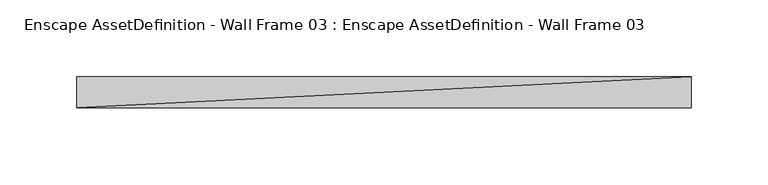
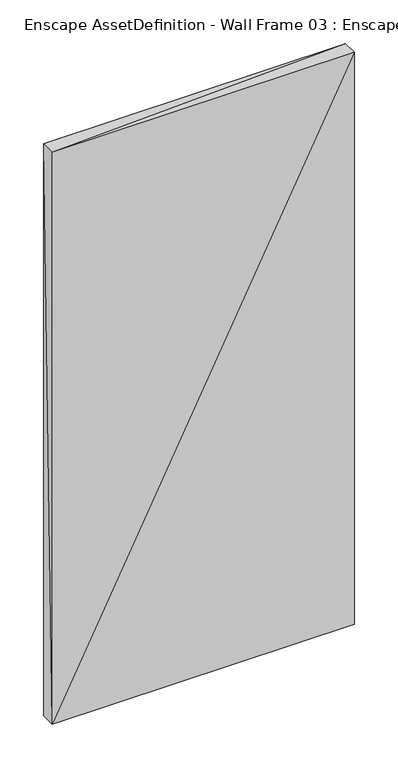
"""IFC4 building model written with IfcOpenShell, lengths in millimetres: geographic element geometry, Enscape AssetDefinition - Wall Frame 03 : Enscape AssetDefinition - Wall Frame 03."""

import ifcopenshell
import ifcopenshell.guid

model = None  # the IFC model being written
_history = None  # IfcOwnerHistory: only IFC2X3 demands one
_inside = {}  # id of a spatial element -> (the spatial element, [elements in it])
_under = {}  # id of a project, library or spatial element -> (it, [spatial elements below it])
_declared = {}  # id of a project -> (the project, [libraries it declares])
_typed = {}  # id of a type object -> (the type object, [elements of that type])
_made_of = {}  # id of a material, layer set ... -> (it, [elements and type objects made of it])


def new_model(schema):
    """Start an empty IFC model of exactly this schema.

    Asked for "IFC4X3", IfcOpenShell would pick the latest addendum, in which some entities
    have other attributes; the version numbers below select the first issue.
    IFC2X3 requires an IfcOwnerHistory on every rooted entity: one is made here for all.
    """
    global model, _history
    if schema == "IFC4X3":
        model = ifcopenshell.file(schema_version=(4, 3, 0, 0))
    else:
        model = ifcopenshell.file(schema=schema)
    _inside.clear()
    _under.clear()
    _declared.clear()
    _typed.clear()
    _made_of.clear()
    _history = None
    if model.schema == "IFC2X3":
        org = make("IfcOrganization", Name="unknown")
        user = make(
            "IfcPersonAndOrganization",
            ThePerson=make("IfcPerson", FamilyName="unknown"),
            TheOrganization=org,
        )
        app = make(
            "IfcApplication",
            ApplicationDeveloper=org,
            Version="unknown",
            ApplicationFullName="unknown",
            ApplicationIdentifier="unknown",
        )
        _history = make(
            "IfcOwnerHistory",
            OwningUser=user,
            OwningApplication=app,
            ChangeAction="ADDED",
            CreationDate=0,
        )
    return model


def make(cls, **values):
    """One entity of the class cls with the attributes given. An attribute that is None is left unset."""
    return model.create_entity(
        cls, **{name: value for name, value in values.items() if value is not None}
    )


def rooted(cls, **values):
    """An entity with a GlobalId (a new one), such as an element, a storey or a relation."""
    return make(cls, GlobalId=ifcopenshell.guid.new(), OwnerHistory=_history, **values)


def si_unit(unit_type, name, prefix=None):
    """IfcSIUnit, for example si_unit("LENGTHUNIT", "METRE", prefix="MILLI")."""
    return make("IfcSIUnit", UnitType=unit_type, Prefix=prefix, Name=name)


def assignment(units):
    """IfcUnitAssignment: the units of a project."""
    return None if units is None else make("IfcUnitAssignment", Units=units)


def point(xyz):
    """IfcCartesianPoint."""
    return None if xyz is None else make("IfcCartesianPoint", Coordinates=xyz)


def direction(xyz):
    """IfcDirection."""
    return None if xyz is None else make("IfcDirection", DirectionRatios=xyz)


def frame(location, z_axis=None, x_axis=None):
    """IfcAxis2Placement3D, a coordinate frame: its origin and axes. An axis left out is left unset."""
    return make(
        "IfcAxis2Placement3D",
        Location=point(location),
        Axis=direction(z_axis),
        RefDirection=direction(x_axis),
    )


def origin():
    """The frame at (0, 0, 0) with its axes left unset."""
    return frame((0.0, 0.0, 0.0))


def place(relative_to, where):
    """IfcLocalPlacement: puts the frame where relative to a parent placement (None: the world)."""
    return make(
        "IfcLocalPlacement", PlacementRelTo=relative_to, RelativePlacement=where
    )


def context(
    kind, dimensions, precision=None, world=None, true_north=None, identifier=None
):
    """IfcGeometricRepresentationContext, for example the 3D "Model" context."""
    return make(
        "IfcGeometricRepresentationContext",
        ContextIdentifier=identifier,
        ContextType=kind,
        CoordinateSpaceDimension=dimensions,
        Precision=precision,
        WorldCoordinateSystem=world,
        TrueNorth=true_north,
    )


def project(units=None, contexts=None):
    """IfcProject with its units and contexts."""
    return rooted(
        "IfcProject",
        Name="project",
        RepresentationContexts=contexts,
        UnitsInContext=assignment(units),
    )


def spatial(cls, under=None, at=None, **own):
    """A site, building, storey or space (cls), placed at a placement, below another one or the project."""
    s = rooted(cls, ObjectPlacement=at, **own)
    if under is not None:
        _under.setdefault(under.id(), (under, []))[1].append(s)
    return s


def faces_of(points, faces, orient=None, outer=None):
    """IfcFace entities. A face is a list of loops; a loop is a list of indices into points, from 0.

    orient and outer hold one flag for each loop. By default every Orientation is true, the
    first loop of a face is its IfcFaceOuterBound and the others are IfcFaceBound.
    """
    made = []
    for i, loops in enumerate(faces):
        bounds = []
        for j, loop in enumerate(loops):
            is_outer = j == 0 if outer is None else outer[i][j]
            bounds.append(
                make(
                    "IfcFaceOuterBound" if is_outer else "IfcFaceBound",
                    Bound=make("IfcPolyLoop", Polygon=[points[k] for k in loop]),
                    Orientation=True if orient is None else orient[i][j],
                )
            )
        made.append(make("IfcFace", Bounds=bounds))
    return made


def faceted_brep(points, faces, orient=None, outer=None, voids=None):
    """IfcFacetedBrep: a solid bounded by flat faces; with voids (closed shells), ...WithVoids."""
    shared = [point(p) for p in points]
    hull = make("IfcClosedShell", CfsFaces=faces_of(shared, faces, orient, outer))
    if voids is None:
        return make("IfcFacetedBrep", Outer=hull)
    return make(
        "IfcFacetedBrepWithVoids",
        Outer=hull,
        Voids=[
            make(cls, CfsFaces=faces_of(shared, fs, o, b)) for cls, fs, o, b in voids
        ],
    )


def shape(context_of_items, identifier, shape_type, items):
    """IfcShapeRepresentation: the items that make up one representation, for example the "Body"."""
    return make(
        "IfcShapeRepresentation",
        ContextOfItems=context_of_items,
        RepresentationIdentifier=identifier,
        RepresentationType=shape_type,
        Items=items,
    )


def source(mapping_origin, context_of_items, identifier, shape_type, items):
    """IfcRepresentationMap: a shape defined once, which mapped items show again and again."""
    return make(
        "IfcRepresentationMap",
        MappingOrigin=mapping_origin,
        MappedRepresentation=shape(context_of_items, identifier, shape_type, items),
    )


def transform(
    local_origin,
    x_axis=None,
    y_axis=None,
    z_axis=None,
    scale=None,
    scale2=None,
    scale3=None,
    uniform=True,
):
    """IfcCartesianTransformationOperator3D, or its non-uniform kind. x_axis, y_axis, z_axis: its Axis1, 2, 3."""
    if uniform:
        return make(
            "IfcCartesianTransformationOperator3D",
            Axis1=direction(x_axis),
            Axis2=direction(y_axis),
            LocalOrigin=point(local_origin),
            Scale=scale,
            Axis3=direction(z_axis),
        )
    return make(
        "IfcCartesianTransformationOperator3DnonUniform",
        Axis1=direction(x_axis),
        Axis2=direction(y_axis),
        LocalOrigin=point(local_origin),
        Scale=scale,
        Axis3=direction(z_axis),
        Scale2=scale2,
        Scale3=scale3,
    )


def mapped(mapping_source, mapping_target):
    """IfcMappedItem: shows the shape of a source again, moved by a transform."""
    return make(
        "IfcMappedItem", MappingSource=mapping_source, MappingTarget=mapping_target
    )


def made_of(thing, what):
    """Note that an element or type object is made of a material, layer set ...; save() writes the relation."""
    if what is not None:
        _made_of.setdefault(what.id(), (what, []))[1].append(thing)
    return thing


def element(
    cls,
    number,
    at=None,
    inside=None,
    cuts=None,
    type_object=None,
    material=None,
    context=None,
    identifier="Body",
    shape_type=None,
    held_by="IfcProductDefinitionShape",
    body=None,
    shapes=None,
    **own,
):
    """One element of the class cls, such as IfcWall. Its Tag is "e" and its number.

    at: its placement. inside: the storey or other place that contains it. cuts: it is an
    opening in that element (IfcRelVoidsElement). A single representation is given by context,
    identifier, shape_type and body (its items); several are given by shapes. held_by: the class
    of the entity that holds the representations. save() writes the other relations.
    """
    e = rooted(cls, Tag="e%d" % number, ObjectPlacement=at, **own)
    if body is not None:
        shapes = [shape(context, identifier, shape_type, body)]
    if shapes is not None:
        e.Representation = make(held_by, Representations=shapes)
    if inside is not None:
        _inside.setdefault(inside.id(), (inside, []))[1].append(e)
    if cuts is not None:
        rooted(
            "IfcRelVoidsElement", RelatingBuildingElement=cuts, RelatedOpeningElement=e
        )
    if type_object is not None:
        _typed.setdefault(type_object.id(), (type_object, []))[1].append(e)
    return made_of(e, material)


def aggregate(whole, parts):
    """IfcRelAggregates: a whole, such as a stair, and the parts it consists of."""
    return rooted("IfcRelAggregates", RelatingObject=whole, RelatedObjects=parts)


def save(model, path):
    """Write the relations noted so far, then the file.

    IfcRelAggregates (storeys below a building ...), IfcRelContainedInSpatialStructure (elements
    in a storey), IfcRelDefinesByType, IfcRelAssociatesMaterial and IfcRelDeclares: one each for
    every whole, place, type object, material and project.
    """
    for whole, parts in _under.values():
        aggregate(whole, parts)
    for where, things in _inside.values():
        rooted(
            "IfcRelContainedInSpatialStructure",
            RelatedElements=things,
            RelatingStructure=where,
        )
    for kind, things in _typed.values():
        rooted("IfcRelDefinesByType", RelatedObjects=things, RelatingType=kind)
    for what, things in _made_of.values():
        rooted("IfcRelAssociatesMaterial", RelatedObjects=things, RelatingMaterial=what)
    for by, libraries in _declared.values():
        rooted("IfcRelDeclares", RelatingContext=by, RelatedDefinitions=libraries)
    model.write(path)


def enscape_assetdefinition_wall_frame_03_enscape_afdf1664(model_context):
    return source(origin(), model_context, "Body", "Brep", [
        faceted_brep([(199.9999881, 3.56e-05, 0.0), (-199.9999881, 3.56e-05, 0.0), (199.9999881, -7.09e-05, 799.9999523), (-199.9999881, -20.0000964, 799.9999523), (-199.9999881, -19.9999902, 0.0), (199.9999881, -20.0000927, 799.9999523), (199.9999881, -19.9999902, 0.0), (-199.9999881, -7.09e-05, 799.9999523)], [[[0, 1, 2]], [[3, 4, 5]], [[4, 1, 6]], [[6, 0, 5]], [[5, 2, 3]], [[3, 7, 4]], [[2, 1, 7]], [[5, 4, 6]], [[6, 1, 0]], [[5, 0, 2]], [[3, 2, 7]], [[4, 7, 1]]]),
    ])


if __name__ == "__main__":
    model = new_model("IFC4")
    model_context = context("Model", 3, world=origin())
    ifc_project = project(units=[si_unit("LENGTHUNIT", "METRE", prefix="MILLI")], contexts=[model_context])
    site = spatial("IfcSite", under=ifc_project)
    building = spatial("IfcBuilding", under=site)
    placement = place(None, origin())
    enscape_assetdefinition_wall_frame_03_enscape_shape = enscape_assetdefinition_wall_frame_03_enscape_afdf1664(model_context)
    element("IfcGeographicElement", 1, ObjectType="Enscape AssetDefinition - Wall Frame 03 : Enscape AssetDefinition - Wall Frame 03", at=placement, inside=building, context=model_context, shape_type="MappedRepresentation", body=[
        mapped(enscape_assetdefinition_wall_frame_03_enscape_shape, transform((0.0, 0.0, 0.0), x_axis=(1.0, 0.0, 0.0), y_axis=(0.0, 1.0, 0.0), z_axis=(0.0, 0.0, 1.0))),
    ])
    save(model, "model.ifc")
